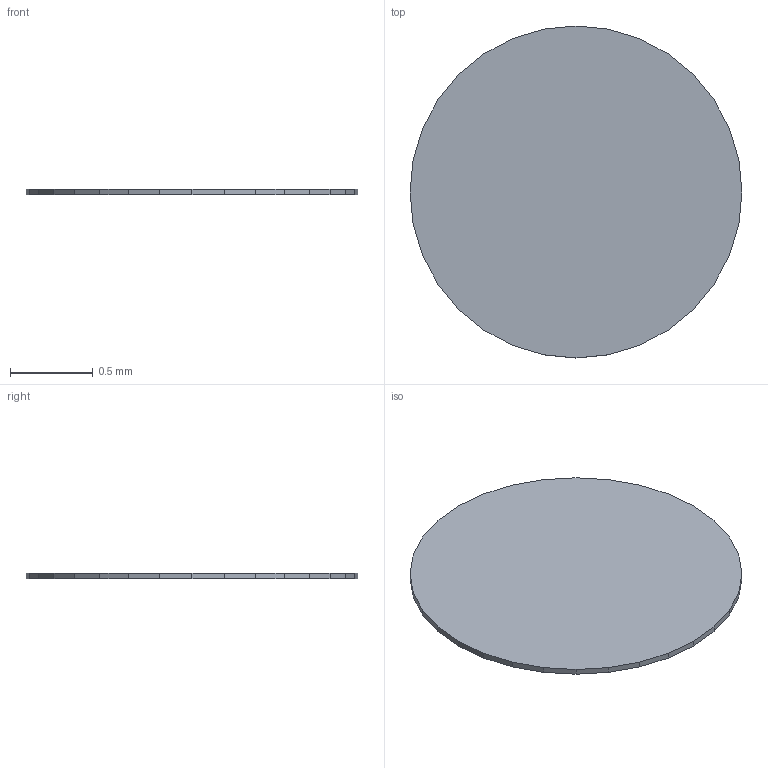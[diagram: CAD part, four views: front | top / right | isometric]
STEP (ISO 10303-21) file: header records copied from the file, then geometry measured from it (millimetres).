
FILE_DESCRIPTION(('FreeCAD Model'),'2;1');
FILE_NAME('Open CASCADE Shape Model','2026-09-21T21:53:17',('FreeCAD'),( 'FreeCAD'),'Open CASCADE STEP processor 7.8','FreeCAD','Unknown');
FILE_SCHEMA(('AUTOMOTIVE_DESIGN { 1 0 10303 214 1 1 1 1 }'));
Length unit declared in the file: millimetre
Products named in the file (1): Open CASCADE STEP translator 7.8 2
Bounding box: 2 x 2 x 0.04 mm (x, y, z)
Volume: 0.1 mm3; surface area: 6.5 mm2
Topology: 1 solids, 1 shells, 34 faces, 96 edges, 64 vertices
Faces by surface type: plane 34
Entity records: 1090 total; most frequent: CARTESIAN_POINT 195, ORIENTED_EDGE 192, DIRECTION 166, EDGE_CURVE 96, LINE 96, VECTOR 96, VERTEX_POINT 64, AXIS2_PLACEMENT_3D 35
